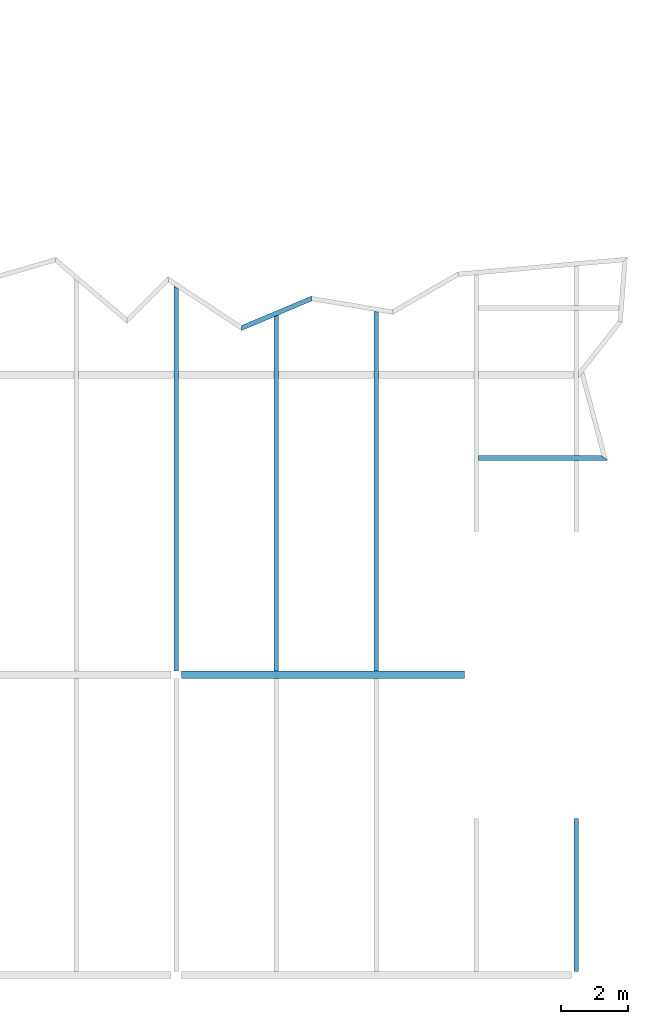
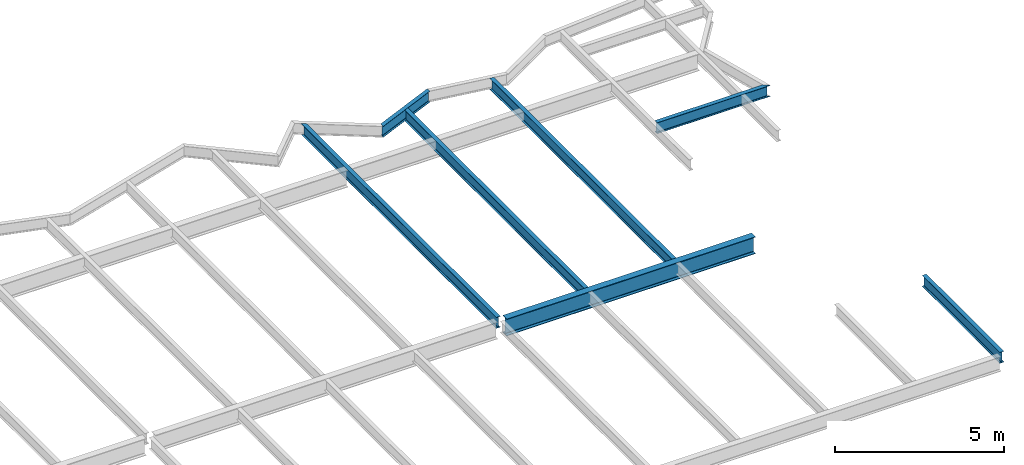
# One storey, part 21 of 23: 7 beams.
"""IFC2X3 building model written with IfcOpenShell, lengths in millimetres."""

from ifc_helpers import new_model, si_unit, origin, place, context, project, spatial, faceted_brep, material, element, save


model = new_model("IFC2X3")

# Units and contexts
context_of_model = context(None, 3, precision=1e-05, world=origin())
ifc_project = project(units=[si_unit("LENGTHUNIT", "METRE", prefix="MILLI")], contexts=[context_of_model])

# Building, storey
building = spatial("IfcBuilding", under=ifc_project, Name="Building", CompositionType="ELEMENT")
storey = spatial("IfcBuildingStorey", under=building, Name="FL5-FRM", CompositionType="ELEMENT")

# Beams
ifc_material_1 = material(Name="A992")
beam_1_placement = place(None, origin())
element("IfcBeam", 1, at=beam_1_placement, inside=storey, material=ifc_material_1, Name="Column597", context=context_of_model, shape_type="Brep", body=[
    faceted_brep([(72157.0, 17885.5, 17261.0), (72157.0, 18114.5, 17261.0), (80650.0, 18114.5, 17261.0), (80650.0, 17885.5, 17261.0), (72157.0, 18114.5, 17280.6), (80650.0, 18114.5, 17280.6), (72157.0, 18018.6, 17280.6), (80650.0, 18018.6, 17280.6), (72157.0, 18015.4, 17281.0), (80650.0, 18015.4, 17281.0), (72157.0, 18012.3, 17282.3), (80650.0, 18012.3, 17282.3), (72157.0, 18009.7, 17284.3), (80650.0, 18009.7, 17284.3), (72157.0, 18007.7, 17287.0), (80650.0, 18007.7, 17287.0), (72157.0, 18006.4, 17290.0), (80650.0, 18006.4, 17290.0), (72157.0, 18005.9, 17293.3), (80650.0, 18005.9, 17293.3), (72157.0, 18005.9, 17840.7), (80650.0, 18005.9, 17840.7), (72157.0, 18006.4, 17844.0), (80650.0, 18006.4, 17844.0), (72157.0, 18007.7, 17847.0), (80650.0, 18007.7, 17847.0), (72157.0, 18009.7, 17849.7), (80650.0, 18009.7, 17849.7), (72157.0, 18012.3, 17851.7), (80650.0, 18012.3, 17851.7), (72157.0, 18015.4, 17853.0), (80650.0, 18015.4, 17853.0), (72157.0, 18018.6, 17853.4), (80650.0, 18018.6, 17853.4), (72157.0, 18114.5, 17853.4), (80650.0, 18114.5, 17853.4), (72157.0, 18114.5, 17873.0), (80650.0, 18114.5, 17873.0), (72157.0, 17885.5, 17873.0), (80650.0, 17885.5, 17873.0), (72157.0, 17885.5, 17853.4), (80650.0, 17885.5, 17853.4), (72157.0, 17981.4, 17853.4), (80650.0, 17981.3, 17853.4), (72157.0, 17984.6, 17853.0), (80650.0, 17984.6, 17853.0), (72157.0, 17987.7, 17851.7), (80650.0, 17987.7, 17851.7), (72157.0, 17990.3, 17849.7), (80650.0, 17990.3, 17849.7), (72157.0, 17992.3, 17847.0), (80650.0, 17992.3, 17847.0), (72157.0, 17993.6, 17844.0), (80650.0, 17993.6, 17844.0), (72157.0, 17994.1, 17840.7), (80650.0, 17994.0, 17840.7), (72157.0, 17994.1, 17293.3), (80650.0, 17994.0, 17293.3), (72157.0, 17993.6, 17290.0), (80650.0, 17993.6, 17290.0), (72157.0, 17992.3, 17287.0), (80650.0, 17992.3, 17287.0), (72157.0, 17990.3, 17284.3), (80650.0, 17990.3, 17284.3), (72157.0, 17987.7, 17282.3), (80650.0, 17987.7, 17282.3), (72157.0, 17984.6, 17281.0), (80650.0, 17984.6, 17281.0), (72157.0, 17981.4, 17280.6), (80650.0, 17981.3, 17280.6), (72157.0, 17885.5, 17280.6), (80650.0, 17885.5, 17280.6)], [[[0, 1, 2, 3]], [[1, 4, 5, 2]], [[4, 6, 7, 5]], [[6, 8, 9, 7]], [[8, 10, 11, 9]], [[10, 12, 13, 11]], [[12, 14, 15, 13]], [[14, 16, 17, 15]], [[16, 18, 19, 17]], [[18, 20, 21, 19]], [[20, 22, 23, 21]], [[22, 24, 25, 23]], [[24, 26, 27, 25]], [[26, 28, 29, 27]], [[28, 30, 31, 29]], [[30, 32, 33, 31]], [[32, 34, 35, 33]], [[34, 36, 37, 35]], [[36, 38, 39, 37]], [[38, 40, 41, 39]], [[40, 42, 43, 41]], [[42, 44, 45, 43]], [[44, 46, 47, 45]], [[46, 48, 49, 47]], [[48, 50, 51, 49]], [[50, 52, 53, 51]], [[52, 54, 55, 53]], [[54, 56, 57, 55]], [[56, 58, 59, 57]], [[58, 60, 61, 59]], [[60, 62, 63, 61]], [[62, 64, 65, 63]], [[64, 66, 67, 65]], [[66, 68, 69, 67]], [[68, 70, 71, 69]], [[70, 0, 3, 71]], [[0, 70, 68, 66, 64, 62, 60, 58, 56, 54, 52, 50, 48, 46, 44, 42, 40, 38, 36, 34, 32, 30, 28, 26, 24, 22, 20, 18, 16, 14, 12, 10, 8, 6, 4, 1]], [[3, 2, 5, 7, 9, 11, 13, 15, 17, 19, 21, 23, 25, 27, 29, 31, 33, 35, 37, 39, 41, 43, 45, 47, 49, 51, 53, 55, 57, 59, 61, 63, 65, 67, 69, 71]]]),
])
ifc_material_2 = material(Name="A992")
beam_2_placement = place(None, origin())
element("IfcBeam", 2, at=beam_2_placement, inside=storey, material=ifc_material_2, Name="B940", context=context_of_model, shape_type="Brep", body=[
    faceted_brep([(77930.0, 28900.5, 17474.0), (78070.0, 28877.1, 17474.0), (78070.0, 18114.5, 17474.0), (77930.0, 18114.5, 17474.0), (78070.0, 28877.1, 17482.8), (78070.0, 18114.5, 17482.8), (78013.4, 28886.6, 17482.8), (78013.4, 18114.5, 17482.8), (78011.9, 28886.8, 17482.9), (78011.9, 18114.5, 17482.9), (78010.5, 28887.0, 17483.2), (78010.5, 18114.5, 17483.2), (78009.2, 28887.3, 17483.7), (78009.2, 18114.5, 17483.7), (78007.9, 28887.5, 17484.4), (78007.9, 18114.5, 17484.4), (78006.7, 28887.7, 17485.3), (78006.7, 18114.5, 17485.3), (78005.7, 28887.9, 17486.3), (78005.7, 18114.5, 17486.3), (78004.8, 28888.0, 17487.5), (78004.8, 18114.5, 17487.5), (78004.1, 28888.1, 17488.8), (78004.1, 18114.5, 17488.8), (78003.6, 28888.2, 17490.1), (78003.6, 18114.5, 17490.1), (78003.3, 28888.3, 17491.5), (78003.3, 18114.5, 17491.5), (78003.2, 28888.3, 17493.0), (78003.2, 18114.5, 17493.0), (78003.2, 28888.3, 17854.0), (78003.2, 18114.5, 17854.0), (78003.3, 28888.3, 17855.5), (78003.3, 18114.5, 17855.5), (78003.6, 28888.2, 17856.9), (78003.6, 18114.5, 17856.9), (78004.1, 28888.1, 17858.2), (78004.1, 18114.5, 17858.2), (78004.8, 28888.0, 17859.5), (78004.8, 18114.5, 17859.5), (78005.7, 28887.9, 17860.7), (78005.7, 18114.5, 17860.7), (78006.7, 28887.7, 17861.7), (78006.7, 18114.5, 17861.7), (78007.9, 28887.5, 17862.6), (78007.9, 18114.5, 17862.6), (78009.2, 28887.3, 17863.3), (78009.2, 18114.5, 17863.3), (78010.5, 28887.0, 17863.8), (78010.5, 18114.5, 17863.8), (78011.9, 28886.8, 17864.1), (78011.9, 18114.5, 17864.1), (78013.4, 28886.6, 17864.2), (78013.4, 18114.5, 17864.2), (78070.0, 28877.1, 17864.2), (78070.0, 18114.5, 17864.2), (78070.0, 28877.1, 17873.0), (78070.0, 18114.5, 17873.0), (77930.0, 28900.5, 17873.0), (77930.0, 18114.5, 17873.0), (77930.0, 28900.5, 17864.2), (77930.0, 18114.5, 17864.2), (77986.6, 28891.0, 17864.2), (77986.6, 18114.5, 17864.2), (77988.1, 28890.8, 17864.1), (77988.1, 18114.5, 17864.1), (77989.5, 28890.6, 17863.8), (77989.5, 18114.5, 17863.8), (77990.8, 28890.3, 17863.3), (77990.8, 18114.5, 17863.3), (77992.1, 28890.1, 17862.6), (77992.1, 18114.5, 17862.6), (77993.3, 28889.9, 17861.7), (77993.3, 18114.5, 17861.7), (77994.3, 28889.8, 17860.7), (77994.3, 18114.5, 17860.7), (77995.2, 28889.6, 17859.5), (77995.2, 18114.5, 17859.5), (77995.9, 28889.5, 17858.2), (77995.9, 18114.5, 17858.2), (77996.4, 28889.4, 17856.9), (77996.4, 18114.5, 17856.9), (77996.7, 28889.4, 17855.5), (77996.7, 18114.5, 17855.5), (77996.8, 28889.3, 17854.0), (77996.8, 18114.5, 17854.0), (77996.8, 28889.3, 17493.0), (77996.8, 18114.5, 17493.0), (77996.7, 28889.4, 17491.5), (77996.7, 18114.5, 17491.5), (77996.4, 28889.4, 17490.1), (77996.4, 18114.5, 17490.1), (77995.9, 28889.5, 17488.8), (77995.9, 18114.5, 17488.8), (77995.2, 28889.6, 17487.5), (77995.2, 18114.5, 17487.5), (77994.3, 28889.8, 17486.3), (77994.3, 18114.5, 17486.3), (77993.3, 28889.9, 17485.3), (77993.3, 18114.5, 17485.3), (77992.1, 28890.1, 17484.4), (77992.1, 18114.5, 17484.4), (77990.8, 28890.3, 17483.7), (77990.8, 18114.5, 17483.7), (77989.5, 28890.6, 17483.2), (77989.5, 18114.5, 17483.2), (77988.1, 28890.8, 17482.9), (77988.1, 18114.5, 17482.9), (77986.6, 28891.0, 17482.8), (77986.6, 18114.5, 17482.8), (77930.0, 28900.5, 17482.8), (77930.0, 18114.5, 17482.8)], [[[0, 1, 2, 3]], [[1, 4, 5, 2]], [[4, 6, 7, 5]], [[6, 8, 9, 7]], [[8, 10, 11, 9]], [[10, 12, 13, 11]], [[12, 14, 15, 13]], [[14, 16, 17, 15]], [[16, 18, 19, 17]], [[18, 20, 21, 19]], [[20, 22, 23, 21]], [[22, 24, 25, 23]], [[24, 26, 27, 25]], [[26, 28, 29, 27]], [[28, 30, 31, 29]], [[30, 32, 33, 31]], [[32, 34, 35, 33]], [[34, 36, 37, 35]], [[36, 38, 39, 37]], [[38, 40, 41, 39]], [[40, 42, 43, 41]], [[42, 44, 45, 43]], [[44, 46, 47, 45]], [[46, 48, 49, 47]], [[48, 50, 51, 49]], [[50, 52, 53, 51]], [[52, 54, 55, 53]], [[54, 56, 57, 55]], [[56, 58, 59, 57]], [[58, 60, 61, 59]], [[60, 62, 63, 61]], [[62, 64, 65, 63]], [[64, 66, 67, 65]], [[66, 68, 69, 67]], [[68, 70, 71, 69]], [[70, 72, 73, 71]], [[72, 74, 75, 73]], [[74, 76, 77, 75]], [[76, 78, 79, 77]], [[78, 80, 81, 79]], [[80, 82, 83, 81]], [[82, 84, 85, 83]], [[84, 86, 87, 85]], [[86, 88, 89, 87]], [[88, 90, 91, 89]], [[90, 92, 93, 91]], [[92, 94, 95, 93]], [[94, 96, 97, 95]], [[96, 98, 99, 97]], [[98, 100, 101, 99]], [[100, 102, 103, 101]], [[102, 104, 105, 103]], [[104, 106, 107, 105]], [[106, 108, 109, 107]], [[108, 110, 111, 109]], [[110, 0, 3, 111]], [[0, 110, 108, 106, 104, 102, 100, 98, 96, 94, 92, 90, 88, 86, 84, 82, 80, 78, 76, 74, 72, 70, 68, 66, 64, 62, 60, 58, 56, 54, 52, 50, 48, 46, 44, 42, 40, 38, 36, 34, 32, 30, 28, 26, 24, 22, 20, 18, 16, 14, 12, 10, 8, 6, 4, 1]], [[3, 2, 5, 7, 9, 11, 13, 15, 17, 19, 21, 23, 25, 27, 29, 31, 33, 35, 37, 39, 41, 43, 45, 47, 49, 51, 53, 55, 57, 59, 61, 63, 65, 67, 69, 71, 73, 75, 77, 79, 81, 83, 85, 87, 89, 91, 93, 95, 97, 99, 101, 103, 105, 107, 109, 111]]]),
])
ifc_material_3 = material(Name="A992")
beam_3_placement = place(None, origin())
element("IfcBeam", 3, at=beam_3_placement, inside=storey, material=ifc_material_3, Name="B942", context=context_of_model, shape_type="Brep", body=[
    faceted_brep([(73955.0, 28320.5, 17474.0), (73969.9, 28478.7, 17474.0), (76052.1, 29355.4, 17474.0), (76069.1, 29210.6, 17474.0), (73969.9, 28478.7, 17482.8), (76052.1, 29355.4, 17482.8), (73963.9, 28414.7, 17482.8), (76059.0, 29296.9, 17482.8), (73963.7, 28413.1, 17482.9), (76059.2, 29295.4, 17482.9), (73963.6, 28411.5, 17483.2), (76059.3, 29293.9, 17483.2), (73963.4, 28409.9, 17483.7), (76059.5, 29292.5, 17483.7), (73963.3, 28408.5, 17484.4), (76059.6, 29291.2, 17484.4), (73963.2, 28407.2, 17485.3), (76059.8, 29290.0, 17485.3), (73963.1, 28406.0, 17486.3), (76059.9, 29288.9, 17486.3), (73963.0, 28405.0, 17487.5), (76060.0, 29288.0, 17487.5), (73962.9, 28404.2, 17488.8), (76060.1, 29287.3, 17488.8), (73962.9, 28403.7, 17490.1), (76060.2, 29286.7, 17490.1), (73962.8, 28403.3, 17491.5), (76060.2, 29286.4, 17491.5), (73962.8, 28403.2, 17493.0), (76060.2, 29286.3, 17493.0), (73962.8, 28403.2, 17854.0), (76060.2, 29286.3, 17854.0), (73962.8, 28403.3, 17855.5), (76060.2, 29286.4, 17855.5), (73962.9, 28403.7, 17856.9), (76060.2, 29286.7, 17856.9), (73962.9, 28404.2, 17858.2), (76060.1, 29287.3, 17858.2), (73963.0, 28405.0, 17859.5), (76060.0, 29288.0, 17859.5), (73963.1, 28406.0, 17860.7), (76059.9, 29288.9, 17860.7), (73963.2, 28407.2, 17861.7), (76059.8, 29290.0, 17861.7), (73963.3, 28408.5, 17862.6), (76059.6, 29291.2, 17862.6), (73963.4, 28409.9, 17863.3), (76059.5, 29292.5, 17863.3), (73963.6, 28411.5, 17863.8), (76059.3, 29293.9, 17863.8), (73963.7, 28413.1, 17864.1), (76059.2, 29295.4, 17864.1), (73963.9, 28414.7, 17864.2), (76059.0, 29296.9, 17864.2), (73969.9, 28478.7, 17864.2), (76052.1, 29355.4, 17864.2), (73969.9, 28478.7, 17873.0), (76052.1, 29355.4, 17873.0), (73955.0, 28320.5, 17873.0), (76069.1, 29210.6, 17873.0), (73955.0, 28320.5, 17864.2), (76069.1, 29210.6, 17864.2), (73961.0, 28384.4, 17864.2), (76062.2, 29269.1, 17864.2), (73961.2, 28386.1, 17864.1), (76062.1, 29270.6, 17864.1), (73961.4, 28387.7, 17863.8), (76061.9, 29272.1, 17863.8), (73961.5, 28389.2, 17863.3), (76061.7, 29273.5, 17863.3), (73961.6, 28390.7, 17862.6), (76061.6, 29274.8, 17862.6), (73961.8, 28392.0, 17861.7), (76061.4, 29276.1, 17861.7), (73961.9, 28393.1, 17860.7), (76061.3, 29277.1, 17860.7), (73962.0, 28394.1, 17859.5), (76061.2, 29278.0, 17859.5), (73962.0, 28394.9, 17858.2), (76061.1, 29278.7, 17858.2), (73962.1, 28395.5, 17856.9), (76061.0, 29279.3, 17856.9), (73962.1, 28395.8, 17855.5), (76061.0, 29279.6, 17855.5), (73962.1, 28396.0, 17854.0), (76061.0, 29279.7, 17854.0), (73962.1, 28396.0, 17493.0), (76061.0, 29279.7, 17493.0), (73962.1, 28395.8, 17491.5), (76061.0, 29279.6, 17491.5), (73962.1, 28395.5, 17490.1), (76061.0, 29279.3, 17490.1), (73962.0, 28394.9, 17488.8), (76061.1, 29278.7, 17488.8), (73962.0, 28394.1, 17487.5), (76061.2, 29278.0, 17487.5), (73961.9, 28393.1, 17486.3), (76061.3, 29277.1, 17486.3), (73961.8, 28392.0, 17485.3), (76061.4, 29276.1, 17485.3), (73961.6, 28390.7, 17484.4), (76061.6, 29274.8, 17484.4), (73961.5, 28389.2, 17483.7), (76061.7, 29273.5, 17483.7), (73961.4, 28387.7, 17483.2), (76061.9, 29272.1, 17483.2), (73961.2, 28386.1, 17482.9), (76062.1, 29270.6, 17482.9), (73961.0, 28384.4, 17482.8), (76062.2, 29269.1, 17482.8), (73955.0, 28320.5, 17482.8), (76069.1, 29210.6, 17482.8)], [[[0, 1, 2, 3]], [[1, 4, 5, 2]], [[4, 6, 7, 5]], [[6, 8, 9, 7]], [[8, 10, 11, 9]], [[10, 12, 13, 11]], [[12, 14, 15, 13]], [[14, 16, 17, 15]], [[16, 18, 19, 17]], [[18, 20, 21, 19]], [[20, 22, 23, 21]], [[22, 24, 25, 23]], [[24, 26, 27, 25]], [[26, 28, 29, 27]], [[28, 30, 31, 29]], [[30, 32, 33, 31]], [[32, 34, 35, 33]], [[34, 36, 37, 35]], [[36, 38, 39, 37]], [[38, 40, 41, 39]], [[40, 42, 43, 41]], [[42, 44, 45, 43]], [[44, 46, 47, 45]], [[46, 48, 49, 47]], [[48, 50, 51, 49]], [[50, 52, 53, 51]], [[52, 54, 55, 53]], [[54, 56, 57, 55]], [[56, 58, 59, 57]], [[58, 60, 61, 59]], [[60, 62, 63, 61]], [[62, 64, 65, 63]], [[64, 66, 67, 65]], [[66, 68, 69, 67]], [[68, 70, 71, 69]], [[70, 72, 73, 71]], [[72, 74, 75, 73]], [[74, 76, 77, 75]], [[76, 78, 79, 77]], [[78, 80, 81, 79]], [[80, 82, 83, 81]], [[82, 84, 85, 83]], [[84, 86, 87, 85]], [[86, 88, 89, 87]], [[88, 90, 91, 89]], [[90, 92, 93, 91]], [[92, 94, 95, 93]], [[94, 96, 97, 95]], [[96, 98, 99, 97]], [[98, 100, 101, 99]], [[100, 102, 103, 101]], [[102, 104, 105, 103]], [[104, 106, 107, 105]], [[106, 108, 109, 107]], [[108, 110, 111, 109]], [[110, 0, 3, 111]], [[0, 110, 108, 106, 104, 102, 100, 98, 96, 94, 92, 90, 88, 86, 84, 82, 80, 78, 76, 74, 72, 70, 68, 66, 64, 62, 60, 58, 56, 54, 52, 50, 48, 46, 44, 42, 40, 38, 36, 34, 32, 30, 28, 26, 24, 22, 20, 18, 16, 14, 12, 10, 8, 6, 4, 1]], [[3, 2, 5, 7, 9, 11, 13, 15, 17, 19, 21, 23, 25, 27, 29, 31, 33, 35, 37, 39, 41, 43, 45, 47, 49, 51, 53, 55, 57, 59, 61, 63, 65, 67, 69, 71, 73, 75, 77, 79, 81, 83, 85, 87, 89, 91, 93, 95, 97, 99, 101, 103, 105, 107, 109, 111]]]),
])
ifc_material_4 = material(Name="A992")
beam_4_placement = place(None, origin())
element("IfcBeam", 4, at=beam_4_placement, inside=storey, material=ifc_material_4, Name="B943", context=context_of_model, shape_type="Brep", body=[
    faceted_brep([(74930.0, 28731.0, 17474.0), (75070.0, 28790.0, 17474.0), (75070.0, 18114.5, 17474.0), (74930.0, 18114.5, 17474.0), (75070.0, 28790.0, 17482.8), (75070.0, 18114.5, 17482.8), (75013.4, 28766.1, 17482.8), (75013.4, 18114.5, 17482.8), (75012.0, 28765.5, 17482.9), (75011.9, 18114.5, 17482.9), (75010.5, 28764.9, 17483.2), (75010.5, 18114.5, 17483.2), (75009.2, 28764.3, 17483.7), (75009.2, 18114.5, 17483.7), (75007.9, 28763.8, 17484.4), (75007.9, 18114.5, 17484.4), (75006.7, 28763.3, 17485.3), (75006.7, 18114.5, 17485.3), (75005.7, 28762.9, 17486.3), (75005.7, 18114.5, 17486.3), (75004.8, 28762.5, 17487.5), (75004.8, 18114.5, 17487.5), (75004.1, 28762.2, 17488.8), (75004.1, 18114.5, 17488.8), (75003.6, 28762.0, 17490.1), (75003.6, 18114.5, 17490.1), (75003.3, 28761.9, 17491.5), (75003.3, 18114.5, 17491.5), (75003.2, 28761.8, 17493.0), (75003.2, 18114.5, 17493.0), (75003.2, 28761.8, 17854.0), (75003.2, 18114.5, 17854.0), (75003.3, 28761.9, 17855.5), (75003.3, 18114.5, 17855.5), (75003.6, 28762.0, 17856.9), (75003.6, 18114.5, 17856.9), (75004.1, 28762.2, 17858.2), (75004.1, 18114.5, 17858.2), (75004.8, 28762.5, 17859.5), (75004.8, 18114.5, 17859.5), (75005.7, 28762.9, 17860.7), (75005.7, 18114.5, 17860.7), (75006.7, 28763.3, 17861.7), (75006.7, 18114.5, 17861.7), (75007.9, 28763.8, 17862.6), (75007.9, 18114.5, 17862.6), (75009.2, 28764.3, 17863.3), (75009.2, 18114.5, 17863.3), (75010.5, 28764.9, 17863.8), (75010.5, 18114.5, 17863.8), (75012.0, 28765.5, 17864.1), (75011.9, 18114.5, 17864.1), (75013.4, 28766.1, 17864.2), (75013.4, 18114.5, 17864.2), (75070.0, 28790.0, 17864.2), (75070.0, 18114.5, 17864.2), (75070.0, 28790.0, 17873.0), (75070.0, 18114.5, 17873.0), (74930.0, 28731.0, 17873.0), (74930.0, 18114.5, 17873.0), (74930.0, 28731.0, 17864.2), (74930.0, 18114.5, 17864.2), (74986.6, 28754.8, 17864.2), (74986.6, 18114.5, 17864.2), (74988.0, 28755.4, 17864.1), (74988.1, 18114.5, 17864.1), (74989.5, 28756.0, 17863.8), (74989.5, 18114.5, 17863.8), (74990.8, 28756.6, 17863.3), (74990.8, 18114.5, 17863.3), (74992.1, 28757.2, 17862.6), (74992.1, 18114.5, 17862.6), (74993.3, 28757.6, 17861.7), (74993.3, 18114.5, 17861.7), (74994.3, 28758.1, 17860.7), (74994.3, 18114.5, 17860.7), (74995.2, 28758.4, 17859.5), (74995.2, 18114.5, 17859.5), (74995.9, 28758.7, 17858.2), (74995.9, 18114.5, 17858.2), (74996.4, 28759.0, 17856.9), (74996.4, 18114.5, 17856.9), (74996.7, 28759.1, 17855.5), (74996.7, 18114.5, 17855.5), (74996.8, 28759.1, 17854.0), (74996.8, 18114.5, 17854.0), (74996.8, 28759.1, 17493.0), (74996.8, 18114.5, 17493.0), (74996.7, 28759.1, 17491.5), (74996.7, 18114.5, 17491.5), (74996.4, 28759.0, 17490.1), (74996.4, 18114.5, 17490.1), (74995.9, 28758.7, 17488.8), (74995.9, 18114.5, 17488.8), (74995.2, 28758.4, 17487.5), (74995.2, 18114.5, 17487.5), (74994.3, 28758.1, 17486.3), (74994.3, 18114.5, 17486.3), (74993.3, 28757.6, 17485.3), (74993.3, 18114.5, 17485.3), (74992.1, 28757.2, 17484.4), (74992.1, 18114.5, 17484.4), (74990.8, 28756.6, 17483.7), (74990.8, 18114.5, 17483.7), (74989.5, 28756.0, 17483.2), (74989.5, 18114.5, 17483.2), (74988.0, 28755.4, 17482.9), (74988.1, 18114.5, 17482.9), (74986.6, 28754.8, 17482.8), (74986.6, 18114.5, 17482.8), (74930.0, 28731.0, 17482.8), (74930.0, 18114.5, 17482.8)], [[[0, 1, 2, 3]], [[1, 4, 5, 2]], [[4, 6, 7, 5]], [[6, 8, 9, 7]], [[8, 10, 11, 9]], [[10, 12, 13, 11]], [[12, 14, 15, 13]], [[14, 16, 17, 15]], [[16, 18, 19, 17]], [[18, 20, 21, 19]], [[20, 22, 23, 21]], [[22, 24, 25, 23]], [[24, 26, 27, 25]], [[26, 28, 29, 27]], [[28, 30, 31, 29]], [[30, 32, 33, 31]], [[32, 34, 35, 33]], [[34, 36, 37, 35]], [[36, 38, 39, 37]], [[38, 40, 41, 39]], [[40, 42, 43, 41]], [[42, 44, 45, 43]], [[44, 46, 47, 45]], [[46, 48, 49, 47]], [[48, 50, 51, 49]], [[50, 52, 53, 51]], [[52, 54, 55, 53]], [[54, 56, 57, 55]], [[56, 58, 59, 57]], [[58, 60, 61, 59]], [[60, 62, 63, 61]], [[62, 64, 65, 63]], [[64, 66, 67, 65]], [[66, 68, 69, 67]], [[68, 70, 71, 69]], [[70, 72, 73, 71]], [[72, 74, 75, 73]], [[74, 76, 77, 75]], [[76, 78, 79, 77]], [[78, 80, 81, 79]], [[80, 82, 83, 81]], [[82, 84, 85, 83]], [[84, 86, 87, 85]], [[86, 88, 89, 87]], [[88, 90, 91, 89]], [[90, 92, 93, 91]], [[92, 94, 95, 93]], [[94, 96, 97, 95]], [[96, 98, 99, 97]], [[98, 100, 101, 99]], [[100, 102, 103, 101]], [[102, 104, 105, 103]], [[104, 106, 107, 105]], [[106, 108, 109, 107]], [[108, 110, 111, 109]], [[110, 0, 3, 111]], [[0, 110, 108, 106, 104, 102, 100, 98, 96, 94, 92, 90, 88, 86, 84, 82, 80, 78, 76, 74, 72, 70, 68, 66, 64, 62, 60, 58, 56, 54, 52, 50, 48, 46, 44, 42, 40, 38, 36, 34, 32, 30, 28, 26, 24, 22, 20, 18, 16, 14, 12, 10, 8, 6, 4, 1]], [[3, 2, 5, 7, 9, 11, 13, 15, 17, 19, 21, 23, 25, 27, 29, 31, 33, 35, 37, 39, 41, 43, 45, 47, 49, 51, 53, 55, 57, 59, 61, 63, 65, 67, 69, 71, 73, 75, 77, 79, 81, 83, 85, 87, 89, 91, 93, 95, 97, 99, 101, 103, 105, 107, 109, 111]]]),
])
ifc_material_5 = material(Name="A992")
beam_5_placement = place(None, origin())
element("IfcBeam", 5, at=beam_5_placement, inside=storey, material=ifc_material_5, Name="B945", context=context_of_model, shape_type="Brep", body=[
    faceted_brep([(71930.0, 29663.5, 17474.0), (72070.0, 29570.7, 17474.0), (72070.0, 18114.5, 17474.0), (71930.0, 18114.5, 17474.0), (72070.0, 29570.7, 17482.8), (72070.0, 18114.5, 17482.8), (72013.4, 29608.2, 17482.8), (72013.4, 18114.5, 17482.8), (72012.0, 29609.2, 17482.9), (72011.9, 18114.5, 17482.9), (72010.5, 29610.1, 17483.2), (72010.5, 18114.5, 17483.2), (72009.2, 29611.0, 17483.7), (72009.2, 18114.5, 17483.7), (72007.9, 29611.8, 17484.4), (72007.9, 18114.5, 17484.4), (72006.7, 29612.6, 17485.3), (72006.7, 18114.5, 17485.3), (72005.7, 29613.3, 17486.3), (72005.7, 18114.5, 17486.3), (72004.8, 29613.9, 17487.5), (72004.8, 18114.5, 17487.5), (72004.1, 29614.3, 17488.8), (72004.1, 18114.5, 17488.8), (72003.6, 29614.7, 17490.1), (72003.6, 18114.5, 17490.1), (72003.3, 29614.9, 17491.5), (72003.3, 18114.5, 17491.5), (72003.2, 29615.0, 17493.0), (72003.2, 18114.5, 17493.0), (72003.2, 29615.0, 17854.0), (72003.2, 18114.5, 17854.0), (72003.3, 29614.9, 17855.5), (72003.3, 18114.5, 17855.5), (72003.6, 29614.7, 17856.9), (72003.6, 18114.5, 17856.9), (72004.1, 29614.3, 17858.2), (72004.1, 18114.5, 17858.2), (72004.8, 29613.9, 17859.5), (72004.8, 18114.5, 17859.5), (72005.7, 29613.3, 17860.7), (72005.7, 18114.5, 17860.7), (72006.7, 29612.6, 17861.7), (72006.7, 18114.5, 17861.7), (72007.9, 29611.8, 17862.6), (72007.9, 18114.5, 17862.6), (72009.2, 29611.0, 17863.3), (72009.2, 18114.5, 17863.3), (72010.5, 29610.1, 17863.8), (72010.5, 18114.5, 17863.8), (72012.0, 29609.2, 17864.1), (72011.9, 18114.5, 17864.1), (72013.4, 29608.2, 17864.2), (72013.4, 18114.5, 17864.2), (72070.0, 29570.7, 17864.2), (72070.0, 18114.5, 17864.2), (72070.0, 29570.7, 17873.0), (72070.0, 18114.5, 17873.0), (71930.0, 29663.5, 17873.0), (71930.0, 18114.5, 17873.0), (71930.0, 29663.5, 17864.2), (71930.0, 18114.5, 17864.2), (71986.6, 29626.0, 17864.2), (71986.6, 18114.5, 17864.2), (71988.0, 29625.0, 17864.1), (71988.1, 18114.5, 17864.1), (71989.5, 29624.1, 17863.8), (71989.5, 18114.5, 17863.8), (71990.8, 29623.2, 17863.3), (71990.8, 18114.5, 17863.3), (71992.1, 29622.3, 17862.6), (71992.1, 18114.5, 17862.6), (71993.3, 29621.5, 17861.7), (71993.3, 18114.5, 17861.7), (71994.3, 29620.9, 17860.7), (71994.3, 18114.5, 17860.7), (71995.2, 29620.3, 17859.5), (71995.2, 18114.5, 17859.5), (71995.9, 29619.8, 17858.2), (71995.9, 18114.5, 17858.2), (71996.4, 29619.5, 17856.9), (71996.4, 18114.5, 17856.9), (71996.7, 29619.3, 17855.5), (71996.7, 18114.5, 17855.5), (71996.8, 29619.2, 17854.0), (71996.8, 18114.5, 17854.0), (71996.8, 29619.2, 17493.0), (71996.8, 18114.5, 17493.0), (71996.7, 29619.3, 17491.5), (71996.7, 18114.5, 17491.5), (71996.4, 29619.5, 17490.1), (71996.4, 18114.5, 17490.1), (71995.9, 29619.8, 17488.8), (71995.9, 18114.5, 17488.8), (71995.2, 29620.3, 17487.5), (71995.2, 18114.5, 17487.5), (71994.3, 29620.9, 17486.3), (71994.3, 18114.5, 17486.3), (71993.3, 29621.5, 17485.3), (71993.3, 18114.5, 17485.3), (71992.1, 29622.3, 17484.4), (71992.1, 18114.5, 17484.4), (71990.8, 29623.2, 17483.7), (71990.8, 18114.5, 17483.7), (71989.5, 29624.1, 17483.2), (71989.5, 18114.5, 17483.2), (71988.0, 29625.0, 17482.9), (71988.1, 18114.5, 17482.9), (71986.6, 29626.0, 17482.8), (71986.6, 18114.5, 17482.8), (71930.0, 29663.5, 17482.8), (71930.0, 18114.5, 17482.8)], [[[0, 1, 2, 3]], [[1, 4, 5, 2]], [[4, 6, 7, 5]], [[6, 8, 9, 7]], [[8, 10, 11, 9]], [[10, 12, 13, 11]], [[12, 14, 15, 13]], [[14, 16, 17, 15]], [[16, 18, 19, 17]], [[18, 20, 21, 19]], [[20, 22, 23, 21]], [[22, 24, 25, 23]], [[24, 26, 27, 25]], [[26, 28, 29, 27]], [[28, 30, 31, 29]], [[30, 32, 33, 31]], [[32, 34, 35, 33]], [[34, 36, 37, 35]], [[36, 38, 39, 37]], [[38, 40, 41, 39]], [[40, 42, 43, 41]], [[42, 44, 45, 43]], [[44, 46, 47, 45]], [[46, 48, 49, 47]], [[48, 50, 51, 49]], [[50, 52, 53, 51]], [[52, 54, 55, 53]], [[54, 56, 57, 55]], [[56, 58, 59, 57]], [[58, 60, 61, 59]], [[60, 62, 63, 61]], [[62, 64, 65, 63]], [[64, 66, 67, 65]], [[66, 68, 69, 67]], [[68, 70, 71, 69]], [[70, 72, 73, 71]], [[72, 74, 75, 73]], [[74, 76, 77, 75]], [[76, 78, 79, 77]], [[78, 80, 81, 79]], [[80, 82, 83, 81]], [[82, 84, 85, 83]], [[84, 86, 87, 85]], [[86, 88, 89, 87]], [[88, 90, 91, 89]], [[90, 92, 93, 91]], [[92, 94, 95, 93]], [[94, 96, 97, 95]], [[96, 98, 99, 97]], [[98, 100, 101, 99]], [[100, 102, 103, 101]], [[102, 104, 105, 103]], [[104, 106, 107, 105]], [[106, 108, 109, 107]], [[108, 110, 111, 109]], [[110, 0, 3, 111]], [[0, 110, 108, 106, 104, 102, 100, 98, 96, 94, 92, 90, 88, 86, 84, 82, 80, 78, 76, 74, 72, 70, 68, 66, 64, 62, 60, 58, 56, 54, 52, 50, 48, 46, 44, 42, 40, 38, 36, 34, 32, 30, 28, 26, 24, 22, 20, 18, 16, 14, 12, 10, 8, 6, 4, 1]], [[3, 2, 5, 7, 9, 11, 13, 15, 17, 19, 21, 23, 25, 27, 29, 31, 33, 35, 37, 39, 41, 43, 45, 47, 49, 51, 53, 55, 57, 59, 61, 63, 65, 67, 69, 71, 73, 75, 77, 79, 81, 83, 85, 87, 89, 91, 93, 95, 97, 99, 101, 103, 105, 107, 109, 111]]]),
])
ifc_material_6 = material(Name="A992")
beam_6_placement = place(None, origin())
element("IfcBeam", 6, at=beam_6_placement, inside=storey, material=ifc_material_6, Name="B956", context=context_of_model, shape_type="Brep", body=[
    faceted_brep([(81070.0, 24430.0, 17474.0), (81070.0, 24570.0, 17474.0), (84758.1, 24570.0, 17474.0), (84940.3, 24430.0, 17474.0), (81070.0, 24570.0, 17482.8), (84758.1, 24570.0, 17482.8), (81070.0, 24513.4, 17482.8), (84831.8, 24513.4, 17482.8), (81070.0, 24511.9, 17482.9), (84833.6, 24512.0, 17482.9), (81070.0, 24510.5, 17483.2), (84835.5, 24510.5, 17483.2), (81070.0, 24509.2, 17483.7), (84837.2, 24509.2, 17483.7), (81070.0, 24507.9, 17484.4), (84838.9, 24507.9, 17484.4), (81070.0, 24506.7, 17485.3), (84840.4, 24506.7, 17485.2), (81070.0, 24505.7, 17486.3), (84841.7, 24505.7, 17486.3), (81070.0, 24504.8, 17487.5), (84842.9, 24504.9, 17487.4), (81070.0, 24504.1, 17488.8), (84843.8, 24504.1, 17488.7), (81070.0, 24503.6, 17490.1), (84844.4, 24503.7, 17490.1), (81070.0, 24503.3, 17491.5), (84844.8, 24503.4, 17491.5), (81070.0, 24503.2, 17493.0), (84845.0, 24503.2, 17493.0), (81070.0, 24503.2, 17854.0), (84845.0, 24503.2, 17854.0), (81070.0, 24503.3, 17855.5), (84844.8, 24503.4, 17855.5), (81070.0, 24503.6, 17856.9), (84844.4, 24503.7, 17856.9), (81070.0, 24504.1, 17858.2), (84843.8, 24504.1, 17858.3), (81070.0, 24504.8, 17859.5), (84842.9, 24504.9, 17859.6), (81070.0, 24505.7, 17860.7), (84841.7, 24505.7, 17860.7), (81070.0, 24506.7, 17861.7), (84840.4, 24506.7, 17861.8), (81070.0, 24507.9, 17862.6), (84838.9, 24507.9, 17862.6), (81070.0, 24509.2, 17863.3), (84837.2, 24509.2, 17863.3), (81070.0, 24510.5, 17863.8), (84835.5, 24510.5, 17863.8), (81070.0, 24511.9, 17864.1), (84833.6, 24512.0, 17864.1), (81070.0, 24513.4, 17864.2), (84831.8, 24513.4, 17864.2), (81070.0, 24570.0, 17864.2), (84758.1, 24570.0, 17864.2), (81070.0, 24570.0, 17873.0), (84758.1, 24570.0, 17873.0), (81070.0, 24430.0, 17873.0), (84940.3, 24430.0, 17873.0), (81070.0, 24430.0, 17864.2), (84940.3, 24430.0, 17864.2), (81070.0, 24486.6, 17864.2), (84866.6, 24486.6, 17864.2), (81070.0, 24488.1, 17864.1), (84864.8, 24488.0, 17864.1), (81070.0, 24489.5, 17863.8), (84862.9, 24489.5, 17863.8), (81070.0, 24490.8, 17863.3), (84861.1, 24490.8, 17863.3), (81070.0, 24492.1, 17862.6), (84859.5, 24492.1, 17862.6), (81070.0, 24493.3, 17861.7), (84858.0, 24493.3, 17861.8), (81070.0, 24494.3, 17860.7), (84856.7, 24494.3, 17860.7), (81070.0, 24495.2, 17859.5), (84855.5, 24495.1, 17859.6), (81070.0, 24495.9, 17858.2), (84854.6, 24495.9, 17858.3), (81070.0, 24496.4, 17856.9), (84854.0, 24496.3, 17856.9), (81070.0, 24496.7, 17855.5), (84853.6, 24496.6, 17855.5), (81070.0, 24496.8, 17854.0), (84853.4, 24496.8, 17854.0), (81070.0, 24496.8, 17493.0), (84853.4, 24496.8, 17493.0), (81070.0, 24496.7, 17491.5), (84853.6, 24496.6, 17491.5), (81070.0, 24496.4, 17490.1), (84854.0, 24496.3, 17490.1), (81070.0, 24495.9, 17488.8), (84854.6, 24495.9, 17488.7), (81070.0, 24495.2, 17487.5), (84855.5, 24495.1, 17487.4), (81070.0, 24494.3, 17486.3), (84856.7, 24494.3, 17486.3), (81070.0, 24493.3, 17485.3), (84858.0, 24493.3, 17485.2), (81070.0, 24492.1, 17484.4), (84859.5, 24492.1, 17484.4), (81070.0, 24490.8, 17483.7), (84861.1, 24490.8, 17483.7), (81070.0, 24489.5, 17483.2), (84862.9, 24489.5, 17483.2), (81070.0, 24488.1, 17482.9), (84864.8, 24488.0, 17482.9), (81070.0, 24486.6, 17482.8), (84866.6, 24486.6, 17482.8), (81070.0, 24430.0, 17482.8), (84940.3, 24430.0, 17482.8)], [[[0, 1, 2, 3]], [[1, 4, 5, 2]], [[4, 6, 7, 5]], [[6, 8, 9, 7]], [[8, 10, 11, 9]], [[10, 12, 13, 11]], [[12, 14, 15, 13]], [[14, 16, 17, 15]], [[16, 18, 19, 17]], [[18, 20, 21, 19]], [[20, 22, 23, 21]], [[22, 24, 25, 23]], [[24, 26, 27, 25]], [[26, 28, 29, 27]], [[28, 30, 31, 29]], [[30, 32, 33, 31]], [[32, 34, 35, 33]], [[34, 36, 37, 35]], [[36, 38, 39, 37]], [[38, 40, 41, 39]], [[40, 42, 43, 41]], [[42, 44, 45, 43]], [[44, 46, 47, 45]], [[46, 48, 49, 47]], [[48, 50, 51, 49]], [[50, 52, 53, 51]], [[52, 54, 55, 53]], [[54, 56, 57, 55]], [[56, 58, 59, 57]], [[58, 60, 61, 59]], [[60, 62, 63, 61]], [[62, 64, 65, 63]], [[64, 66, 67, 65]], [[66, 68, 69, 67]], [[68, 70, 71, 69]], [[70, 72, 73, 71]], [[72, 74, 75, 73]], [[74, 76, 77, 75]], [[76, 78, 79, 77]], [[78, 80, 81, 79]], [[80, 82, 83, 81]], [[82, 84, 85, 83]], [[84, 86, 87, 85]], [[86, 88, 89, 87]], [[88, 90, 91, 89]], [[90, 92, 93, 91]], [[92, 94, 95, 93]], [[94, 96, 97, 95]], [[96, 98, 99, 97]], [[98, 100, 101, 99]], [[100, 102, 103, 101]], [[102, 104, 105, 103]], [[104, 106, 107, 105]], [[106, 108, 109, 107]], [[108, 110, 111, 109]], [[110, 0, 3, 111]], [[0, 110, 108, 106, 104, 102, 100, 98, 96, 94, 92, 90, 88, 86, 84, 82, 80, 78, 76, 74, 72, 70, 68, 66, 64, 62, 60, 58, 56, 54, 52, 50, 48, 46, 44, 42, 40, 38, 36, 34, 32, 30, 28, 26, 24, 22, 20, 18, 16, 14, 12, 10, 8, 6, 4, 1]], [[3, 2, 5, 7, 9, 11, 13, 15, 17, 19, 21, 23, 25, 27, 29, 31, 33, 35, 37, 39, 41, 43, 45, 47, 49, 51, 53, 55, 57, 59, 61, 63, 65, 67, 69, 71, 73, 75, 77, 79, 81, 83, 85, 87, 89, 91, 93, 95, 97, 99, 101, 103, 105, 107, 109, 111]]]),
])
ifc_material_7 = material(Name="A992")
beam_7_placement = place(None, origin())
element("IfcBeam", 7, at=beam_7_placement, inside=storey, material=ifc_material_7, Name="B957", context=context_of_model, shape_type="Brep", body=[
    faceted_brep([(84070.0, 9104.5, 17474.0), (83930.0, 9104.5, 17474.0), (83930.0, 13700.0, 17474.0), (84070.0, 13700.0, 17474.0), (83930.0, 9104.5, 17482.8), (83930.0, 13700.0, 17482.8), (83986.6, 9104.5, 17482.8), (83986.6, 13700.0, 17482.8), (83989.2, 9104.5, 17483.1), (83989.2, 13700.0, 17483.1), (83991.7, 9104.5, 17484.2), (83991.7, 13700.0, 17484.2), (83993.8, 9104.5, 17485.8), (83993.8, 13700.0, 17485.8), (83995.4, 9104.5, 17487.9), (83995.4, 13700.0, 17487.9), (83996.5, 9104.5, 17490.4), (83996.5, 13700.0, 17490.4), (83996.8, 9104.5, 17493.0), (83996.8, 13700.0, 17493.0), (83996.8, 9104.5, 17854.0), (83996.8, 13700.0, 17854.0), (83996.5, 9104.5, 17856.6), (83996.5, 13700.0, 17856.6), (83995.4, 9104.5, 17859.1), (83995.4, 13700.0, 17859.1), (83993.8, 9104.5, 17861.2), (83993.8, 13700.0, 17861.2), (83991.7, 9104.5, 17862.8), (83991.7, 13700.0, 17862.8), (83989.2, 9104.5, 17863.9), (83989.2, 13700.0, 17863.9), (83986.6, 9104.5, 17864.2), (83986.6, 13700.0, 17864.2), (83930.0, 9104.5, 17864.2), (83930.0, 13700.0, 17864.2), (83930.0, 9104.5, 17873.0), (83930.0, 13700.0, 17873.0), (84070.0, 9104.5, 17873.0), (84070.0, 13700.0, 17873.0), (84070.0, 9104.5, 17864.2), (84070.0, 13700.0, 17864.2), (84013.4, 9104.5, 17864.2), (84013.4, 13700.0, 17864.2), (84010.8, 9104.5, 17863.9), (84010.8, 13700.0, 17863.9), (84008.3, 9104.5, 17862.8), (84008.3, 13700.0, 17862.8), (84006.2, 9104.5, 17861.2), (84006.2, 13700.0, 17861.2), (84004.6, 9104.5, 17859.1), (84004.6, 13700.0, 17859.1), (84003.5, 9104.5, 17856.6), (84003.5, 13700.0, 17856.6), (84003.2, 9104.5, 17854.0), (84003.2, 13700.0, 17854.0), (84003.2, 9104.5, 17493.0), (84003.2, 13700.0, 17493.0), (84003.5, 9104.5, 17490.4), (84003.5, 13700.0, 17490.4), (84004.6, 9104.5, 17487.9), (84004.6, 13700.0, 17487.9), (84006.2, 9104.5, 17485.8), (84006.2, 13700.0, 17485.8), (84008.3, 9104.5, 17484.2), (84008.3, 13700.0, 17484.2), (84010.8, 9104.5, 17483.1), (84010.8, 13700.0, 17483.1), (84013.4, 9104.5, 17482.8), (84013.4, 13700.0, 17482.8), (84070.0, 9104.5, 17482.8), (84070.0, 13700.0, 17482.8)], [[[0, 1, 2, 3]], [[1, 4, 5, 2]], [[4, 6, 7, 5]], [[6, 8, 9, 7]], [[8, 10, 11, 9]], [[10, 12, 13, 11]], [[12, 14, 15, 13]], [[14, 16, 17, 15]], [[16, 18, 19, 17]], [[18, 20, 21, 19]], [[20, 22, 23, 21]], [[22, 24, 25, 23]], [[24, 26, 27, 25]], [[26, 28, 29, 27]], [[28, 30, 31, 29]], [[30, 32, 33, 31]], [[32, 34, 35, 33]], [[34, 36, 37, 35]], [[36, 38, 39, 37]], [[38, 40, 41, 39]], [[40, 42, 43, 41]], [[42, 44, 45, 43]], [[44, 46, 47, 45]], [[46, 48, 49, 47]], [[48, 50, 51, 49]], [[50, 52, 53, 51]], [[52, 54, 55, 53]], [[54, 56, 57, 55]], [[56, 58, 59, 57]], [[58, 60, 61, 59]], [[60, 62, 63, 61]], [[62, 64, 65, 63]], [[64, 66, 67, 65]], [[66, 68, 69, 67]], [[68, 70, 71, 69]], [[70, 0, 3, 71]], [[0, 70, 68, 66, 64, 62, 60, 58, 56, 54, 52, 50, 48, 46, 44, 42, 40, 38, 36, 34, 32, 30, 28, 26, 24, 22, 20, 18, 16, 14, 12, 10, 8, 6, 4, 1]], [[3, 2, 5, 7, 9, 11, 13, 15, 17, 19, 21, 23, 25, 27, 29, 31, 33, 35, 37, 39, 41, 43, 45, 47, 49, 51, 53, 55, 57, 59, 61, 63, 65, 67, 69, 71]]]),
])

save(model, "model.ifc")
